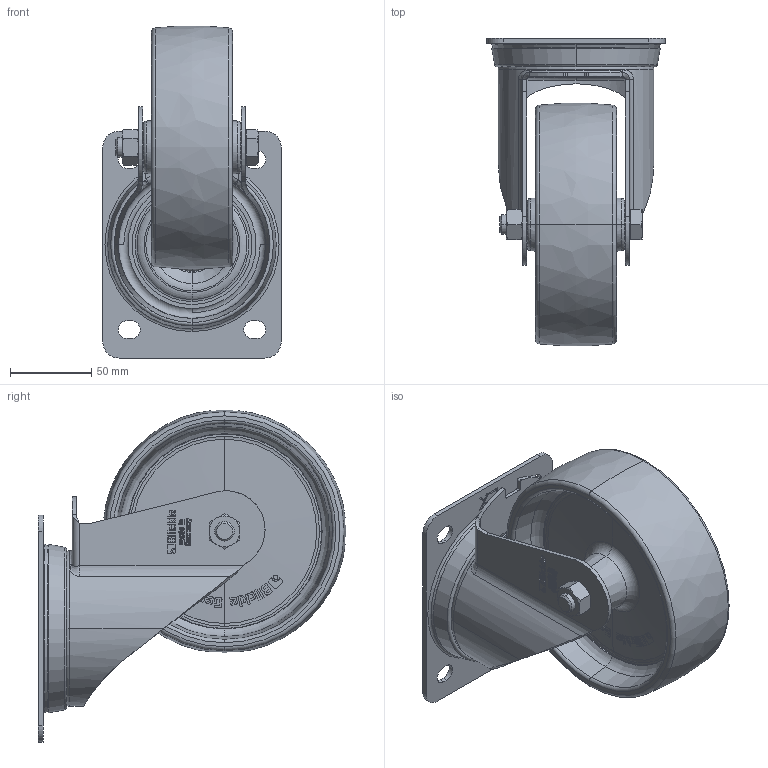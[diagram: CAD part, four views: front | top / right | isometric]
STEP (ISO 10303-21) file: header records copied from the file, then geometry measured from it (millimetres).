
FILE_DESCRIPTION (( 'STEP AP214' ), '1' );
FILE_NAME ('LX-PO_150G_007500-214.step', '2022-01-06T09:45:01', ( '' ), ( '' ), 'SwSTEP 2.0', 'SolidWorks 2018', '' );
FILE_SCHEMA (( 'AUTOMOTIVE_DESIGN' ));
Length unit declared in the file: millimetre
Products named in the file (5): LX-PO_150G_007500-214; GH-LX_100-200_GH-LX-160x60-03_20x61; PO_150_20G_G16_3D; GH-LX-160x60-03_20x61_G16_3D; PO_150-160_3D_G16_PO_150_20G_005504
Assembly tree (4 placements, depth 3):
  LX-PO_150G_007500-214
    GH-LX_100-200_GH-LX-160x60-03_20x61
      GH-LX-160x60-03_20x61_G16_3D
    PO_150-160_3D_G16_PO_150_20G_005504
      PO_150_20G_G16_3D
Bounding box: 110 x 189.85 x 204.85 mm (x, y, z)
Volume: 563376.6 mm3; surface area: 173011.3 mm2
Topology: 2 solids, 6 shells, 1617 faces, 4293 edges, 2814 vertices
Faces by surface type: plane 755, bspline 628, cone 117, cylinder 59, torus 58
Entity records: 57791 total; most frequent: CARTESIAN_POINT 22620, ORIENTED_EDGE 8586, DIRECTION 4742, EDGE_CURVE 4293, VERTEX_POINT 2814, VECTOR 2112, LINE 2112, B_SPLINE_CURVE_WITH_KNOTS 1857
